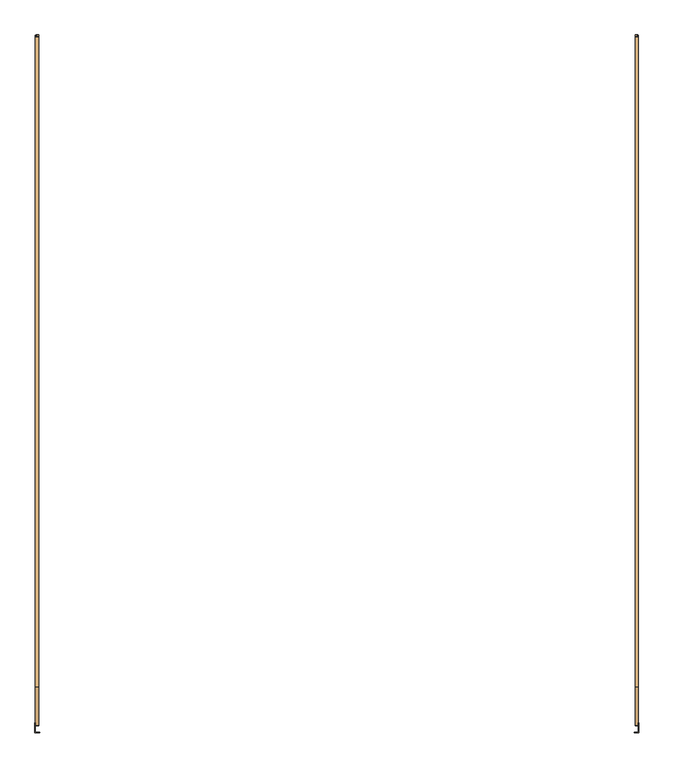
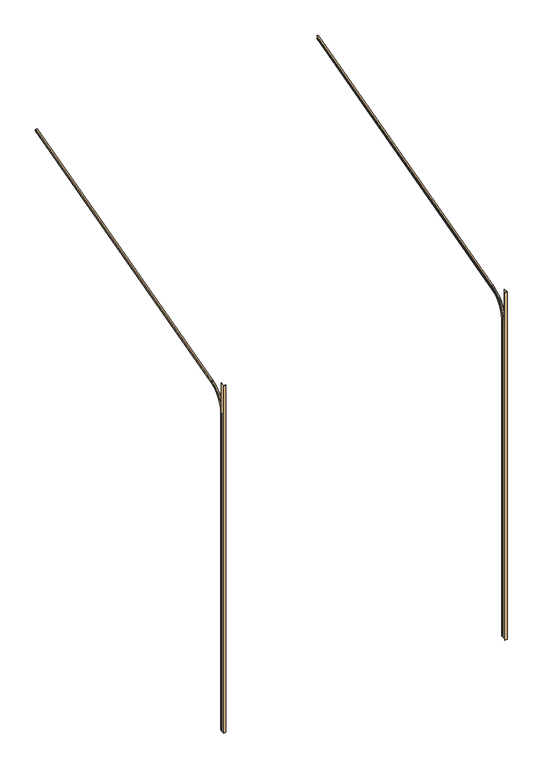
"""IFC4 building model written with IfcOpenShell, lengths in millimetres: door geometry, Vrata Nassau 9000G : Vrata Nassau 9000G."""

from ifc_helpers import new_model, si_unit, frame, origin, origin_with_axes, place, context, project, spatial, polyline, circle_curve, outline, extrude, source, transform, mapped, element, save
from ifc_brep_helpers import plane_surface, cylinder_surface, revolved_surface, advanced_brep


def door_205334c5(model_context):
    return source(origin(), model_context, "Body", "SolidModel", [
        advanced_brep(
        [(1926.0, 269.5, 4570.0), (1906.0, 269.5, 4570.0), (1906.0, 270.5, 4570.0), (1925.0, 270.5, 4570.0), (1925.0, 297.5, 4570.0), (1917.5, 310.4903811, 4570.0), (1906.0, 310.4903811, 4570.0), (1906.0, 311.4903811, 4570.0), (1918.0773503, 311.4903811, 4570.0), (1926.0, 297.7679492, 4570.0), (1926.0, 512.6073532, 4886.823671), (1906.0, 512.6073532, 4886.823671), (1906.0, 512.8661723, 4885.8577452), (1925.0, 512.8661723, 4885.8577452), (1925.0, 519.8542865, 4859.7777479), (1917.5, 523.2164445, 4847.2300033), (1906.0, 523.2164445, 4847.2300033), (1906.0, 523.4752635, 4846.2640775), (1918.0773503, 523.4752635, 4846.2640775), (1926.0, 519.9236368, 4859.5189288)],
        [
            (0, 1),
            (1, 2),
            (2, 3),
            (3, 4),
            (4, 5),
            (5, 6),
            (6, 7),
            (7, 8),
            (8, 9),
            (9, 0),
            (0, 10, circle_curve(frame((1926.0, 597.5, 4570.0), z_axis=(-1.0, 0.0, 0.0), x_axis=(0.0, 0.0, 1.0)), 328.0)),
            (10, 11),
            (11, 1, circle_curve(frame((1906.0, 597.5, 4570.0), z_axis=(1.0, 0.0, 0.0), x_axis=(0.0, 0.0, 1.0)), 328.0)),
            (11, 12),
            (12, 2, circle_curve(frame((1906.0, 597.5, 4570.0), z_axis=(1.0, 0.0, 0.0), x_axis=(0.0, 0.0, 1.0)), 327.0)),
            (12, 13),
            (13, 3, circle_curve(frame((1925.0, 597.5, 4570.0), z_axis=(1.0, 0.0, 0.0), x_axis=(0.0, 0.0, 1.0)), 327.0)),
            (13, 14),
            (14, 4, circle_curve(frame((1925.0, 597.5, 4570.0), z_axis=(1.0, 0.0, 0.0), x_axis=(0.0, 0.0, 1.0)), 300.0)),
            (14, 15),
            (15, 5, circle_curve(frame((1917.5, 597.5, 4570.0), z_axis=(1.0, 0.0, 0.0), x_axis=(0.0, 0.0, 1.0)), 287.0096189)),
            (15, 16),
            (16, 6, circle_curve(frame((1906.0, 597.5, 4570.0), z_axis=(1.0, 0.0, 0.0), x_axis=(0.0, 0.0, 1.0)), 287.0096189)),
            (16, 17),
            (17, 7, circle_curve(frame((1906.0, 597.5, 4570.0), z_axis=(1.0, 0.0, 0.0), x_axis=(0.0, 0.0, 1.0)), 286.0096189)),
            (17, 18),
            (18, 8, circle_curve(frame((1918.0773503, 597.5, 4570.0), z_axis=(1.0, 0.0, 0.0), x_axis=(0.0, 0.0, 1.0)), 286.0096189)),
            (18, 19),
            (19, 9, circle_curve(frame((1926.0, 597.5, 4570.0), z_axis=(1.0, 0.0, 0.0), x_axis=(0.0, 0.0, 1.0)), 299.7320508)),
            (19, 10),
        ],
        [
            plane_surface(frame((1925.0, 297.5, 4570.0), z_axis=(0.0, 0.0, -1.0), x_axis=(-1.0, 0.0, 0.0))),
            cylinder_surface(frame((1925.0, 597.5, 4570.0), z_axis=(-1.0, 0.0, 0.0), x_axis=(0.0, 0.0, 1.0)), 328.0),
            plane_surface(frame((1906.0, 597.5, 4570.0), z_axis=(-1.0, 0.0, 0.0), x_axis=(0.0, 0.0, 1.0))),
            revolved_surface(polyline([(1906.0, 597.5, 4897.0), (1925.0, 597.5, 4897.0)]), (1925.0, 597.5, 4570.0), (-1.0, 0.0, 0.0)),
            plane_surface(frame((1925.0, 597.5, 4570.0), z_axis=(-1.0, 0.0, 0.0), x_axis=(0.0, 0.0, 1.0))),
            revolved_surface(polyline([(1925.0, 597.5, 4870.0), (1917.5, 597.5, 4857.0096189)]), (1925.0, 597.5, 4570.0), (-1.0, 0.0, 0.0)),
            cylinder_surface(frame((1925.0, 597.5, 4570.0), z_axis=(-1.0, 0.0, 0.0), x_axis=(0.0, 0.0, 1.0)), 287.0096189),
            revolved_surface(polyline([(1906.0, 597.5, 4856.0096189), (1918.0773503, 597.5, 4856.0096189)]), (1925.0, 597.5, 4570.0), (-1.0, 0.0, 0.0)),
            revolved_surface(polyline([(1918.0773503, 597.5, 4856.0096189), (1926.0, 597.5, 4869.7320508)]), (1925.0, 597.5, 4570.0), (-1.0, 0.0, 0.0)),
            plane_surface(frame((1926.0, 597.5, 4570.0), z_axis=(1.0, 0.0, 0.0), x_axis=(0.0, 0.0, 1.0))),
            plane_surface(frame((1676.0, 442.2085729, 5149.5554958), z_axis=(0.0, 0.9659258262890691, 0.258819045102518), x_axis=(1.0, 0.0, 0.0))),
        ],
        [
            (0, [[1, 2, 3, 4, 5, 6, 7, 8, 9, 10]]),
            (1, [[11, 12, 13, -1]]),
            (2, [[-13, 14, 15, -2]]),
            (3, [[-15, 16, 17, -3]]),
            (4, [[-17, 18, 19, -4]]),
            (5, [[-19, 20, 21, -5]]),
            (6, [[-21, 22, 23, -6]]),
            (2, [[-23, 24, 25, -7]]),
            (7, [[-25, 26, 27, -8]]),
            (8, [[-27, 28, 29, -9]]),
            (9, [[-29, 30, -11, -10]]),
            (10, [[-30, -28, -26, -24, -22, -20, -18, -16, -14, -12]]),
        ],
    ),
        advanced_brep(
        [(-1926.0, 269.5, 4570.0), (-1926.0, 297.7679492, 4570.0), (-1918.0773503, 311.4903811, 4570.0), (-1906.0, 311.4903811, 4570.0), (-1906.0, 310.4903811, 4570.0), (-1917.5, 310.4903811, 4570.0), (-1925.0, 297.5, 4570.0), (-1925.0, 270.5, 4570.0), (-1906.0, 270.5, 4570.0), (-1906.0, 269.5, 4570.0), (-1926.0, 512.6073532, 4886.823671), (-1926.0, 519.9236368, 4859.5189288), (-1906.0, 512.6073532, 4886.823671), (-1906.0, 512.8661723, 4885.8577452), (-1925.0, 512.8661723, 4885.8577452), (-1925.0, 519.8542865, 4859.7777479), (-1917.5, 523.2164445, 4847.2300033), (-1906.0, 523.2164445, 4847.2300033), (-1906.0, 523.4752635, 4846.2640775), (-1918.0773503, 523.4752635, 4846.2640775)],
        [
            (0, 1),
            (1, 2),
            (2, 3),
            (3, 4),
            (4, 5),
            (5, 6),
            (6, 7),
            (7, 8),
            (8, 9),
            (9, 0),
            (0, 10, circle_curve(frame((-1926.0, 597.5, 4570.0), z_axis=(-1.0, 0.0, 0.0), x_axis=(0.0, 0.0, 1.0)), 328.0)),
            (10, 11),
            (11, 1, circle_curve(frame((-1926.0, 597.5, 4570.0), z_axis=(1.0, 0.0, 0.0), x_axis=(0.0, 0.0, 1.0)), 299.7320508)),
            (9, 12, circle_curve(frame((-1906.0, 597.5, 4570.0), z_axis=(-1.0, 0.0, 0.0), x_axis=(0.0, 0.0, 1.0)), 328.0)),
            (12, 10),
            (8, 13, circle_curve(frame((-1906.0, 597.5, 4570.0), z_axis=(-1.0, 0.0, 0.0), x_axis=(0.0, 0.0, 1.0)), 327.0)),
            (13, 12),
            (7, 14, circle_curve(frame((-1925.0, 597.5, 4570.0), z_axis=(-1.0, 0.0, 0.0), x_axis=(0.0, 0.0, 1.0)), 327.0)),
            (14, 13),
            (6, 15, circle_curve(frame((-1925.0, 597.5, 4570.0), z_axis=(-1.0, 0.0, 0.0), x_axis=(0.0, 0.0, 1.0)), 300.0)),
            (15, 14),
            (5, 16, circle_curve(frame((-1917.5, 597.5, 4570.0), z_axis=(-1.0, 0.0, 0.0), x_axis=(0.0, 0.0, 1.0)), 287.0096189)),
            (16, 15),
            (4, 17, circle_curve(frame((-1906.0, 597.5, 4570.0), z_axis=(-1.0, 0.0, 0.0), x_axis=(0.0, 0.0, 1.0)), 287.0096189)),
            (17, 16),
            (3, 18, circle_curve(frame((-1906.0, 597.5, 4570.0), z_axis=(-1.0, 0.0, 0.0), x_axis=(0.0, 0.0, 1.0)), 286.0096189)),
            (18, 17),
            (11, 19),
            (19, 2, circle_curve(frame((-1918.0773503, 597.5, 4570.0), z_axis=(1.0, 0.0, 0.0), x_axis=(0.0, 0.0, 1.0)), 286.0096189)),
            (19, 18),
        ],
        [
            plane_surface(frame((-1925.0, 297.5, 4570.0), z_axis=(0.0, 0.0, -1.0), x_axis=(1.0, 0.0, 0.0))),
            plane_surface(frame((-1926.0, 597.5, 4570.0), z_axis=(-1.0, 0.0, 0.0), x_axis=(0.0, 0.0, 1.0))),
            cylinder_surface(frame((-1925.0, 597.5, 4570.0), z_axis=(-1.0, 0.0, 0.0), x_axis=(0.0, 0.0, 1.0)), 328.0),
            plane_surface(frame((-1906.0, 597.5, 4570.0), z_axis=(1.0, 0.0, 0.0), x_axis=(0.0, 0.0, 1.0))),
            revolved_surface(polyline([(-1925.0, 597.5, 4897.0), (-1906.0, 597.5, 4897.0)]), (-1925.0, 597.5, 4570.0), (-1.0, 0.0, 0.0)),
            plane_surface(frame((-1925.0, 597.5, 4570.0), z_axis=(1.0, 0.0, 0.0), x_axis=(0.0, 0.0, 1.0))),
            revolved_surface(polyline([(-1917.5, 597.5, 4857.0096189), (-1925.0, 597.5, 4870.0)]), (-1925.0, 597.5, 4570.0), (-1.0, 0.0, 0.0)),
            cylinder_surface(frame((-1925.0, 597.5, 4570.0), z_axis=(-1.0, 0.0, 0.0), x_axis=(0.0, 0.0, 1.0)), 287.0096189),
            revolved_surface(polyline([(-1926.0, 597.5, 4869.7320508), (-1918.0773503, 597.5, 4856.0096189)]), (-1925.0, 597.5, 4570.0), (-1.0, 0.0, 0.0)),
            revolved_surface(polyline([(-1918.0773503, 597.5, 4856.0096189), (-1906.0, 597.5, 4856.0096189)]), (-1925.0, 597.5, 4570.0), (-1.0, 0.0, 0.0)),
            plane_surface(frame((-1676.0, 597.5, 4570.0), z_axis=(0.0, 0.9659258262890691, 0.258819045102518), x_axis=(-1.0, 0.0, 0.0))),
        ],
        [
            (0, [[1, 2, 3, 4, 5, 6, 7, 8, 9, 10]]),
            (1, [[11, 12, 13, -1]]),
            (2, [[14, 15, -11, -10]]),
            (3, [[16, 17, -14, -9]]),
            (4, [[18, 19, -16, -8]]),
            (5, [[20, 21, -18, -7]]),
            (6, [[22, 23, -20, -6]]),
            (7, [[24, 25, -22, -5]]),
            (3, [[26, 27, -24, -4]]),
            (8, [[-13, 28, 29, -2]]),
            (9, [[-29, 30, -26, -3]]),
            (10, [[-15, -17, -19, -21, -23, -25, -27, -30, -28, -12]]),
        ],
    ),
        extrude(outline(polyline([(-1.0, 28.0), (19.0, 28.0), (19.0, 27.0), (0.0, 27.0), (0.0, 0.0), (7.5, -12.9903811), (19.0, -12.9903811), (19.0, -13.9903811), (6.9226497, -13.9903811), (-1.0, -0.2679492), (-1.0, 28.0)])), frame((1925.0, 519.8542865, 4859.7777479), z_axis=(0.0, 0.9659258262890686, 0.25881904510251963), x_axis=(-1.0, 0.0, 0.0)), (0.0, 0.0, 1.0), 4300.0),
        extrude(outline(polyline([(1926.0, 269.5), (1906.0, 269.5), (1906.0, 270.5), (1925.0, 270.5), (1925.0, 297.5), (1917.5, 310.4903811), (1906.0, 310.4903811), (1906.0, 311.4903811), (1918.0773503, 311.4903811), (1926.0, 297.7679492), (1926.0, 269.5)])), origin_with_axes(), (0.0, 0.0, 1.0), 4570.0),
        extrude(outline(polyline([(-1.0, -28.0), (-1.0, 0.2679492), (6.9226497, 13.9903811), (19.0, 13.9903811), (19.0, 12.9903811), (7.5, 12.9903811), (0.0, 0.0), (0.0, -27.0), (19.0, -27.0), (19.0, -28.0), (-1.0, -28.0)])), frame((-1925.0, 519.8542865, 4859.7777479), z_axis=(0.0, 0.9659258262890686, 0.2588190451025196), x_axis=(1.0, 0.0, 0.0)), (0.0, 0.0, 1.0), 4300.0),
        extrude(outline(polyline([(-1926.0, 269.5), (-1926.0, 297.7679492), (-1918.0773503, 311.4903811), (-1906.0, 311.4903811), (-1906.0, 310.4903811), (-1917.5, 310.4903811), (-1925.0, 297.5), (-1925.0, 270.5), (-1906.0, 270.5), (-1906.0, 269.5), (-1926.0, 269.5)])), origin_with_axes(), (0.0, 0.0, 1.0), 4570.0),
        extrude(outline(polyline([(1929.0, 222.5), (1899.0, 222.5), (1899.0, 225.5), (1926.0, 225.5), (1926.0, 287.5), (1929.0, 287.5), (1929.0, 222.5)])), origin_with_axes(), (0.0, 0.0, 1.0), 5000.0),
        extrude(outline(polyline([(-1929.0, 222.5), (-1929.0, 287.5), (-1926.0, 287.5), (-1926.0, 225.5), (-1899.0, 225.5), (-1899.0, 222.5), (-1929.0, 222.5)])), origin_with_axes(), (0.0, 0.0, 1.0), 5000.0),
    ])


if __name__ == "__main__":
    model = new_model("IFC4")
    model_context = context("Model", 3, world=origin())
    ifc_project = project(units=[si_unit("LENGTHUNIT", "METRE", prefix="MILLI")], contexts=[model_context])
    site = spatial("IfcSite", under=ifc_project)
    building = spatial("IfcBuilding", under=site)
    placement = place(None, origin())
    door_shape = door_205334c5(model_context)
    element("IfcDoor", 1, ObjectType="Vrata Nassau 9000G : Vrata Nassau 9000G", at=placement, inside=building, context=model_context, shape_type="MappedRepresentation", body=[
        mapped(door_shape, transform((0.0, 0.0, 0.0), x_axis=(1.0, 0.0, 0.0), y_axis=(0.0, 1.0, 0.0), z_axis=(0.0, 0.0, 1.0))),
    ])
    save(model, "model.ifc")
